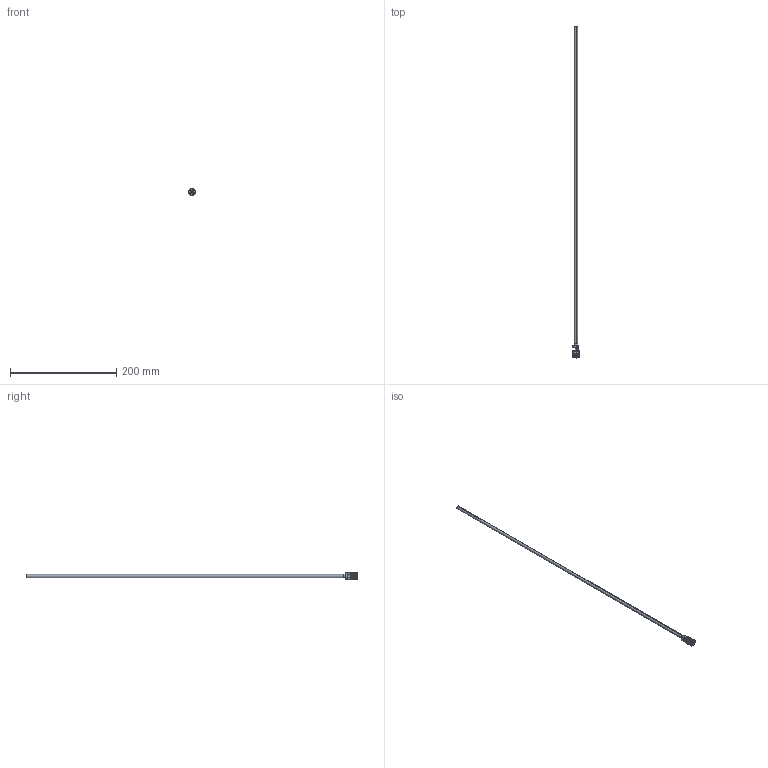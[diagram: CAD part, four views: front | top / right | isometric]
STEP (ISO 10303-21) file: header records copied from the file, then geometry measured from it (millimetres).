
FILE_DESCRIPTION (( 'STEP AP203' ), '1' );
FILE_NAME ('RF-12Fx600.STEP', '2017-12-04T07:53:41', ( 'Balzi' ), ( '' ), 'SwSTEP 2.0', 'SolidWorks 2017', '' );
FILE_SCHEMA (( 'CONFIG_CONTROL_DESIGN' ));
Length unit declared in the file: millimetre
Products named in the file (1): RF-12Fx600
Bounding box: 13.3 x 624 x 13.3 mm (x, y, z)
Volume: 7049.1 mm3; surface area: 22396.2 mm2
Topology: 1 solids, 1 shells, 72 faces, 164 edges, 102 vertices
Faces by surface type: cylinder 26, plane 26, cone 12, torus 8
Entity records: 2124 total; most frequent: DIRECTION 387, CARTESIAN_POINT 358, ORIENTED_EDGE 328, EDGE_CURVE 164, AXIS2_PLACEMENT_3D 155, VERTEX_POINT 102, CIRCLE 82, EDGE_LOOP 82
